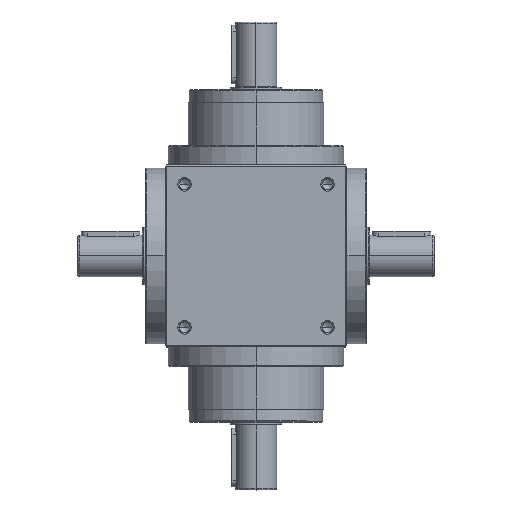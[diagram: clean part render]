
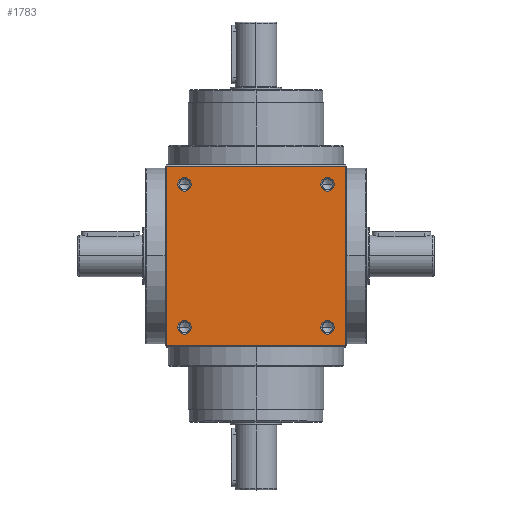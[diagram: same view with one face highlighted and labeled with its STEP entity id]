
A CAD part, top view. The second image highlights one B-rep face of the part: STEP entity #1783.
In plain terms, the highlighted planar face has unit normal (0, 0, 1).
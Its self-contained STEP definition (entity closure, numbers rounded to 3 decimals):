
#86 = EDGE_CURVE ( 'NONE', #5922, #3224, #15012, .T. ) ;
#92 = VERTEX_POINT ( 'NONE', #13342 ) ;
#416 = VERTEX_POINT ( 'NONE', #8647 ) ;
#587 = ORIENTED_EDGE ( 'NONE', *, *, #3352, .F. ) ;
#652 = AXIS2_PLACEMENT_3D ( 'NONE', #9382, #9365, #9636 ) ;
#755 = DIRECTION ( 'NONE',  ( 1., 0., 0. ) ) ;
#878 = EDGE_CURVE ( 'NONE', #8457, #14256, #10016, .T. ) ;
#1023 = DIRECTION ( 'NONE',  ( 1., 0., 0. ) ) ;
#1080 = DIRECTION ( 'NONE',  ( 0., 0., 1. ) ) ;
#1135 = AXIS2_PLACEMENT_3D ( 'NONE', #1187, #1080, #1023 ) ;
#1187 = CARTESIAN_POINT ( 'NONE',  ( -55., 55., 70. ) ) ;
#1717 = DIRECTION ( 'NONE',  ( 0., 1., 0. ) ) ;
#1783 = ADVANCED_FACE ( 'NONE', ( #4448, #4664, #4658, #4306, #4482 ), #10011, .F. ) ;
#2414 = ORIENTED_EDGE ( 'NONE', *, *, #5640, .F. ) ;
#2520 = AXIS2_PLACEMENT_3D ( 'NONE', #9972, #12148, #12222 ) ;
#2866 = VECTOR ( 'NONE', #755, 1000. ) ;
#2895 = CARTESIAN_POINT ( 'NONE',  ( -69., -69., 70. ) ) ;
#3224 = VERTEX_POINT ( 'NONE', #4739 ) ;
#3352 = EDGE_CURVE ( 'NONE', #11453, #92, #7787, .T. ) ;
#3519 = DIRECTION ( 'NONE',  ( 1., 0., 0. ) ) ;
#3529 = DIRECTION ( 'NONE',  ( 0., 0., 1. ) ) ;
#3539 = CARTESIAN_POINT ( 'NONE',  ( 55., -55., 70. ) ) ;
#3677 = CARTESIAN_POINT ( 'NONE',  ( 49.75, 55., 70. ) ) ;
#3916 = AXIS2_PLACEMENT_3D ( 'NONE', #5923, #5733, #5674 ) ;
#4306 = FACE_BOUND ( 'NONE', #8595, .T. ) ;
#4448 = FACE_BOUND ( 'NONE', #8732, .T. ) ;
#4482 = FACE_OUTER_BOUND ( 'NONE', #14992, .T. ) ;
#4656 = EDGE_CURVE ( 'NONE', #14256, #7849, #5764, .T. ) ;
#4658 = FACE_BOUND ( 'NONE', #10496, .T. ) ;
#4664 = FACE_BOUND ( 'NONE', #13811, .T. ) ;
#4739 = CARTESIAN_POINT ( 'NONE',  ( -60.25, 55., 70. ) ) ;
#4872 = CARTESIAN_POINT ( 'NONE',  ( 69., 0., 70. ) ) ;
#4888 = DIRECTION ( 'NONE',  ( 0., -1., 0. ) ) ;
#5170 = VECTOR ( 'NONE', #4888, 1000. ) ;
#5194 = ORIENTED_EDGE ( 'NONE', *, *, #5959, .F. ) ;
#5200 = LINE ( 'NONE', #6002, #2866 ) ;
#5398 = EDGE_CURVE ( 'NONE', #3224, #5922, #9523, .T. ) ;
#5433 = EDGE_CURVE ( 'NONE', #7588, #8457, #5200, .T. ) ;
#5640 = EDGE_CURVE ( 'NONE', #6613, #13000, #12025, .T. ) ;
#5674 = DIRECTION ( 'NONE',  ( 1., 0., 0. ) ) ;
#5733 = DIRECTION ( 'NONE',  ( 0., 0., 1. ) ) ;
#5764 = LINE ( 'NONE', #10776, #7951 ) ;
#5917 = EDGE_CURVE ( 'NONE', #13000, #6613, #6068, .T. ) ;
#5922 = VERTEX_POINT ( 'NONE', #13014 ) ;
#5923 = CARTESIAN_POINT ( 'NONE',  ( -55., -55., 70. ) ) ;
#5959 = EDGE_CURVE ( 'NONE', #11659, #416, #9215, .T. ) ;
#5982 = CIRCLE ( 'NONE', #10335, 5.25 ) ;
#6002 = CARTESIAN_POINT ( 'NONE',  ( 0., 69., 70. ) ) ;
#6068 = CIRCLE ( 'NONE', #14047, 5.25 ) ;
#6107 = ORIENTED_EDGE ( 'NONE', *, *, #6305, .F. ) ;
#6305 = EDGE_CURVE ( 'NONE', #92, #11453, #5982, .T. ) ;
#6336 = CARTESIAN_POINT ( 'NONE',  ( -69., 69., 70. ) ) ;
#6613 = VERTEX_POINT ( 'NONE', #3677 ) ;
#6720 = EDGE_CURVE ( 'NONE', #7849, #7588, #8515, .T. ) ;
#6927 = DIRECTION ( 'NONE',  ( 1., 0., 0. ) ) ;
#6943 = DIRECTION ( 'NONE',  ( 0., 0., 1. ) ) ;
#6968 = CARTESIAN_POINT ( 'NONE',  ( 55., -55., 70. ) ) ;
#7088 = VECTOR ( 'NONE', #1717, 1000. ) ;
#7588 = VERTEX_POINT ( 'NONE', #6336 ) ;
#7787 = CIRCLE ( 'NONE', #12658, 5.25 ) ;
#7849 = VERTEX_POINT ( 'NONE', #2895 ) ;
#7951 = VECTOR ( 'NONE', #10762, 1000. ) ;
#8207 = CARTESIAN_POINT ( 'NONE',  ( 69., 69., 70. ) ) ;
#8427 = CARTESIAN_POINT ( 'NONE',  ( 60.25, 55., 70. ) ) ;
#8457 = VERTEX_POINT ( 'NONE', #8207 ) ;
#8509 = ORIENTED_EDGE ( 'NONE', *, *, #86, .F. ) ;
#8515 = LINE ( 'NONE', #11759, #7088 ) ;
#8595 = EDGE_LOOP ( 'NONE', ( #587, #6107 ) ) ;
#8647 = CARTESIAN_POINT ( 'NONE',  ( -49.75, -55., 70. ) ) ;
#8732 = EDGE_LOOP ( 'NONE', ( #8509, #9468 ) ) ;
#9104 = ORIENTED_EDGE ( 'NONE', *, *, #4656, .F. ) ;
#9215 = CIRCLE ( 'NONE', #13684, 5.25 ) ;
#9365 = DIRECTION ( 'NONE',  ( 0., 0., 1. ) ) ;
#9382 = CARTESIAN_POINT ( 'NONE',  ( 55., 55., 70. ) ) ;
#9468 = ORIENTED_EDGE ( 'NONE', *, *, #5398, .F. ) ;
#9523 = CIRCLE ( 'NONE', #1135, 5.25 ) ;
#9636 = DIRECTION ( 'NONE',  ( 1., 0., 0. ) ) ;
#9805 = CARTESIAN_POINT ( 'NONE',  ( -60.25, -55., 70. ) ) ;
#9972 = CARTESIAN_POINT ( 'NONE',  ( 0., 0., 70. ) ) ;
#10011 = PLANE ( 'NONE',  #2520 ) ;
#10016 = LINE ( 'NONE', #4872, #5170 ) ;
#10335 = AXIS2_PLACEMENT_3D ( 'NONE', #6968, #6943, #6927 ) ;
#10383 = ORIENTED_EDGE ( 'NONE', *, *, #878, .F. ) ;
#10496 = EDGE_LOOP ( 'NONE', ( #11645, #5194 ) ) ;
#10604 = AXIS2_PLACEMENT_3D ( 'NONE', #11249, #11231, #11227 ) ;
#10762 = DIRECTION ( 'NONE',  ( -1., 0., 0. ) ) ;
#10776 = CARTESIAN_POINT ( 'NONE',  ( 0., -69., 70. ) ) ;
#11227 = DIRECTION ( 'NONE',  ( 1., 0., 0. ) ) ;
#11231 = DIRECTION ( 'NONE',  ( 0., 0., 1. ) ) ;
#11249 = CARTESIAN_POINT ( 'NONE',  ( -55., 55., 70. ) ) ;
#11254 = EDGE_CURVE ( 'NONE', #416, #11659, #12015, .T. ) ;
#11453 = VERTEX_POINT ( 'NONE', #13842 ) ;
#11492 = ORIENTED_EDGE ( 'NONE', *, *, #6720, .F. ) ;
#11645 = ORIENTED_EDGE ( 'NONE', *, *, #11254, .F. ) ;
#11659 = VERTEX_POINT ( 'NONE', #9805 ) ;
#11759 = CARTESIAN_POINT ( 'NONE',  ( -69., 0., 70. ) ) ;
#12015 = CIRCLE ( 'NONE', #3916, 5.25 ) ;
#12025 = CIRCLE ( 'NONE', #652, 5.25 ) ;
#12148 = DIRECTION ( 'NONE',  ( 0., 0., -1. ) ) ;
#12222 = DIRECTION ( 'NONE',  ( -1., 0., 0. ) ) ;
#12477 = CARTESIAN_POINT ( 'NONE',  ( 69., -69., 70. ) ) ;
#12658 = AXIS2_PLACEMENT_3D ( 'NONE', #3539, #3529, #3519 ) ;
#12714 = DIRECTION ( 'NONE',  ( 1., 0., 0. ) ) ;
#12738 = DIRECTION ( 'NONE',  ( 0., 0., 1. ) ) ;
#12749 = CARTESIAN_POINT ( 'NONE',  ( -55., -55., 70. ) ) ;
#13000 = VERTEX_POINT ( 'NONE', #8427 ) ;
#13014 = CARTESIAN_POINT ( 'NONE',  ( -49.75, 55., 70. ) ) ;
#13342 = CARTESIAN_POINT ( 'NONE',  ( 49.75, -55., 70. ) ) ;
#13434 = DIRECTION ( 'NONE',  ( 1., 0., 0. ) ) ;
#13478 = ORIENTED_EDGE ( 'NONE', *, *, #5917, .F. ) ;
#13507 = DIRECTION ( 'NONE',  ( 0., 0., 1. ) ) ;
#13549 = CARTESIAN_POINT ( 'NONE',  ( 55., 55., 70. ) ) ;
#13684 = AXIS2_PLACEMENT_3D ( 'NONE', #12749, #12738, #12714 ) ;
#13811 = EDGE_LOOP ( 'NONE', ( #13478, #2414 ) ) ;
#13842 = CARTESIAN_POINT ( 'NONE',  ( 60.25, -55., 70. ) ) ;
#14047 = AXIS2_PLACEMENT_3D ( 'NONE', #13549, #13507, #13434 ) ;
#14256 = VERTEX_POINT ( 'NONE', #12477 ) ;
#14586 = ORIENTED_EDGE ( 'NONE', *, *, #5433, .F. ) ;
#14992 = EDGE_LOOP ( 'NONE', ( #9104, #10383, #14586, #11492 ) ) ;
#15012 = CIRCLE ( 'NONE', #10604, 5.25 ) ;
